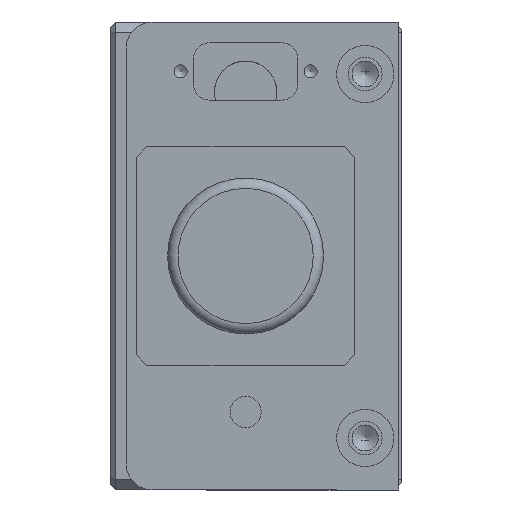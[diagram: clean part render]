
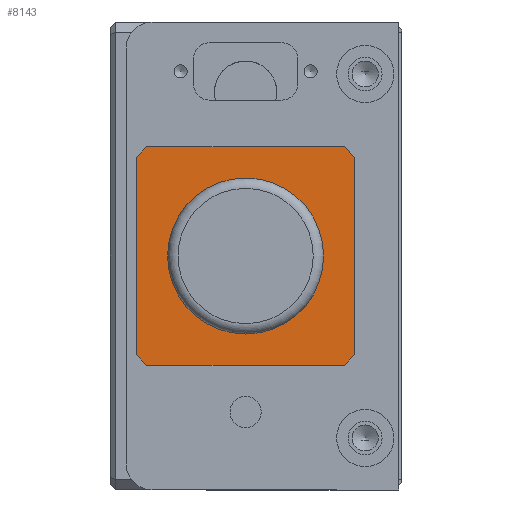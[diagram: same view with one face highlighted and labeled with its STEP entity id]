
A CAD part, left-side view. The second image highlights one B-rep face of the part: STEP entity #8143.
In plain terms, the highlighted planar face has unit normal (-1, 0, 0) as drawn and (0, 0, -1) by its records, which use the part's own axes.
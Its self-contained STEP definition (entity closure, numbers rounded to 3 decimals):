
#225 = CARTESIAN_POINT ( 'NONE',  ( 21., -21., 0. ) ) ;
#320 = DIRECTION ( 'NONE',  ( 0.707, -0.707, 0. ) ) ;
#684 = EDGE_CURVE ( 'NONE', #6593, #2701, #2118, .T. ) ;
#1323 = EDGE_CURVE ( 'NONE', #30696, #2701, #24422, .T. ) ;
#1513 = ORIENTED_EDGE ( 'NONE', *, *, #31048, .F. ) ;
#1590 = CARTESIAN_POINT ( 'NONE',  ( 19., -21., 0. ) ) ;
#1671 = LINE ( 'NONE', #9340, #6383 ) ;
#1822 = EDGE_CURVE ( 'NONE', #19680, #16131, #1671, .T. ) ;
#2077 = LINE ( 'NONE', #16087, #31083 ) ;
#2118 = LINE ( 'NONE', #225, #5250 ) ;
#2395 = DIRECTION ( 'NONE',  ( 0.707, 0.707, 0. ) ) ;
#2400 = EDGE_CURVE ( 'NONE', #30696, #28243, #5568, .T. ) ;
#2494 = EDGE_CURVE ( 'NONE', #14243, #28243, #9491, .T. ) ;
#2701 = VERTEX_POINT ( 'NONE', #30451 ) ;
#3406 = CARTESIAN_POINT ( 'NONE',  ( 21., -19., 0. ) ) ;
#3554 = CARTESIAN_POINT ( 'NONE',  ( -21., -19., 0. ) ) ;
#3783 = ORIENTED_EDGE ( 'NONE', *, *, #2400, .F. ) ;
#4002 = ORIENTED_EDGE ( 'NONE', *, *, #1822, .T. ) ;
#4090 = ORIENTED_EDGE ( 'NONE', *, *, #2494, .T. ) ;
#4147 = LINE ( 'NONE', #13841, #30020 ) ;
#4184 = CARTESIAN_POINT ( 'NONE',  ( 0., 0., 0. ) ) ;
#5250 = VECTOR ( 'NONE', #5370, 1000. ) ;
#5370 = DIRECTION ( 'NONE',  ( 0., 1., 0. ) ) ;
#5568 = LINE ( 'NONE', #16544, #18508 ) ;
#5658 = EDGE_LOOP ( 'NONE', ( #20296 ) ) ;
#6009 = DIRECTION ( 'NONE',  ( 1., 0., 0. ) ) ;
#6117 = CARTESIAN_POINT ( 'NONE',  ( -21., -21., 0. ) ) ;
#6383 = VECTOR ( 'NONE', #29284, 1000. ) ;
#6593 = VERTEX_POINT ( 'NONE', #3406 ) ;
#7427 = CARTESIAN_POINT ( 'NONE',  ( 0., 0., 0. ) ) ;
#8143 = ADVANCED_FACE ( 'NONE', ( #14785, #15563 ), #31798, .T. ) ;
#8925 = AXIS2_PLACEMENT_3D ( 'NONE', #4184, #31690, #21500 ) ;
#9340 = CARTESIAN_POINT ( 'NONE',  ( -20., -20., 0. ) ) ;
#9491 = LINE ( 'NONE', #32450, #30654 ) ;
#11889 = CARTESIAN_POINT ( 'NONE',  ( -2.5, 0., 0. ) ) ;
#12013 = DIRECTION ( 'NONE',  ( -1., 0., 0. ) ) ;
#12440 = CARTESIAN_POINT ( 'NONE',  ( 19., 21., 0. ) ) ;
#12987 = CARTESIAN_POINT ( 'NONE',  ( 20., 20., 0. ) ) ;
#13841 = CARTESIAN_POINT ( 'NONE',  ( -21., -21., 0. ) ) ;
#14243 = VERTEX_POINT ( 'NONE', #28250 ) ;
#14688 = ORIENTED_EDGE ( 'NONE', *, *, #17896, .F. ) ;
#14785 = FACE_BOUND ( 'NONE', #5658, .T. ) ;
#14910 = ORIENTED_EDGE ( 'NONE', *, *, #1323, .T. ) ;
#15563 = FACE_OUTER_BOUND ( 'NONE', #30487, .T. ) ;
#16087 = CARTESIAN_POINT ( 'NONE',  ( 20., -20., 0. ) ) ;
#16131 = VERTEX_POINT ( 'NONE', #3554 ) ;
#16209 = ORIENTED_EDGE ( 'NONE', *, *, #23783, .T. ) ;
#16544 = CARTESIAN_POINT ( 'NONE',  ( -21., 21., 0. ) ) ;
#16588 = VERTEX_POINT ( 'NONE', #1590 ) ;
#17896 = EDGE_CURVE ( 'NONE', #19680, #16588, #26023, .T. ) ;
#18302 = CARTESIAN_POINT ( 'NONE',  ( -19., 21., 0. ) ) ;
#18508 = VECTOR ( 'NONE', #26536, 1000. ) ;
#18872 = CARTESIAN_POINT ( 'NONE',  ( -19., -21., 0. ) ) ;
#19362 = VECTOR ( 'NONE', #6009, 1000. ) ;
#19680 = VERTEX_POINT ( 'NONE', #18872 ) ;
#20296 = ORIENTED_EDGE ( 'NONE', *, *, #22680, .F. ) ;
#21424 = DIRECTION ( 'NONE',  ( 0., -1., 0. ) ) ;
#21500 = DIRECTION ( 'NONE',  ( -1., 0., 0. ) ) ;
#22588 = ORIENTED_EDGE ( 'NONE', *, *, #684, .F. ) ;
#22680 = EDGE_CURVE ( 'NONE', #31379, #31379, #26588, .T. ) ;
#23783 = EDGE_CURVE ( 'NONE', #6593, #16588, #2077, .T. ) ;
#24422 = LINE ( 'NONE', #12987, #32323 ) ;
#26023 = LINE ( 'NONE', #6117, #19362 ) ;
#26536 = DIRECTION ( 'NONE',  ( -1., 0., 0. ) ) ;
#26588 = CIRCLE ( 'NONE', #29320, 2.5 ) ;
#27374 = DIRECTION ( 'NONE',  ( 0., 0., -1. ) ) ;
#28243 = VERTEX_POINT ( 'NONE', #18302 ) ;
#28250 = CARTESIAN_POINT ( 'NONE',  ( -21., 19., 0. ) ) ;
#29284 = DIRECTION ( 'NONE',  ( -0.707, 0.707, 0. ) ) ;
#29320 = AXIS2_PLACEMENT_3D ( 'NONE', #7427, #27374, #12013 ) ;
#30020 = VECTOR ( 'NONE', #21424, 1000. ) ;
#30451 = CARTESIAN_POINT ( 'NONE',  ( 21., 19., 0. ) ) ;
#30487 = EDGE_LOOP ( 'NONE', ( #22588, #16209, #14688, #4002, #1513, #4090, #3783, #14910 ) ) ;
#30654 = VECTOR ( 'NONE', #2395, 1000. ) ;
#30696 = VERTEX_POINT ( 'NONE', #12440 ) ;
#30881 = DIRECTION ( 'NONE',  ( -0.707, -0.707, 0. ) ) ;
#31048 = EDGE_CURVE ( 'NONE', #14243, #16131, #4147, .T. ) ;
#31083 = VECTOR ( 'NONE', #30881, 1000. ) ;
#31379 = VERTEX_POINT ( 'NONE', #11889 ) ;
#31690 = DIRECTION ( 'NONE',  ( 0., 0., -1. ) ) ;
#31798 = PLANE ( 'NONE',  #8925 ) ;
#32323 = VECTOR ( 'NONE', #320, 1000. ) ;
#32450 = CARTESIAN_POINT ( 'NONE',  ( -20., 20., 0. ) ) ;
